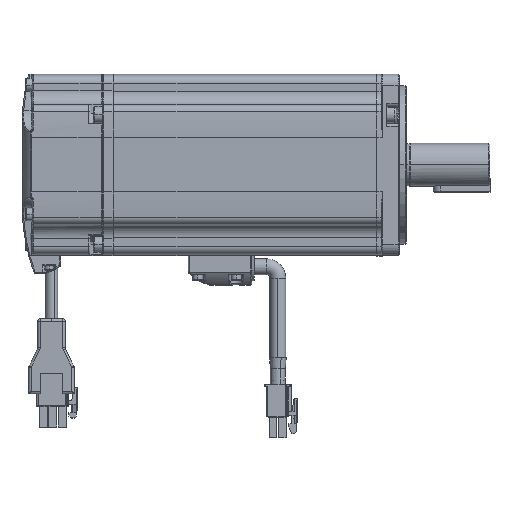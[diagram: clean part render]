
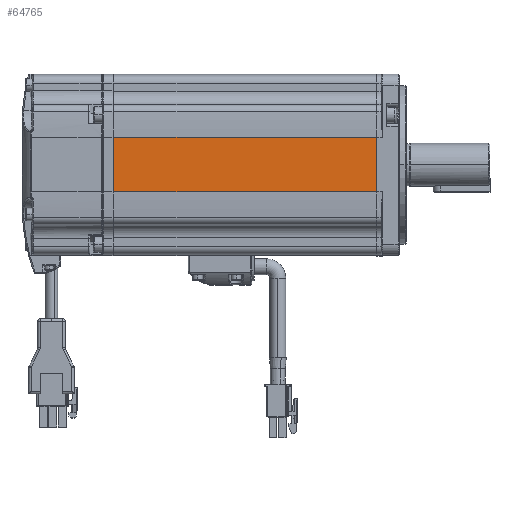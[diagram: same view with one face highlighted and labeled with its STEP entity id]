
A CAD part, top view. The second image highlights one B-rep face of the part: STEP entity #64765.
In plain terms, the highlighted planar face has unit normal (0, 0, 1).
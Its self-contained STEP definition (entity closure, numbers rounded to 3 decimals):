
#864 = VERTEX_POINT ( 'NONE', #68955 ) ;
#1918 = ORIENTED_EDGE ( 'NONE', *, *, #63977, .F. ) ;
#2219 = CARTESIAN_POINT ( 'NONE',  ( -163.03, 4.746, 40. ) ) ;
#2593 = FACE_OUTER_BOUND ( 'NONE', #38052, .T. ) ;
#3560 = VECTOR ( 'NONE', #45695, 1000. ) ;
#3561 = ORIENTED_EDGE ( 'NONE', *, *, #22150, .T. ) ;
#6146 = CARTESIAN_POINT ( 'NONE',  ( -162.53, 4.746, 40. ) ) ;
#8360 = CARTESIAN_POINT ( 'NONE',  ( -46.53, 4.746, 40. ) ) ;
#8598 = DIRECTION ( 'NONE',  ( 0., 1., 0. ) ) ;
#11593 = DIRECTION ( 'NONE',  ( 0., -1., 0. ) ) ;
#21412 = EDGE_CURVE ( 'NONE', #45099, #71170, #21601, .T. ) ;
#21601 = LINE ( 'NONE', #42941, #41384 ) ;
#22150 = EDGE_CURVE ( 'NONE', #44686, #45099, #38094, .T. ) ;
#22966 = CARTESIAN_POINT ( 'NONE',  ( -46.53, -7.254, 40. ) ) ;
#23118 = ORIENTED_EDGE ( 'NONE', *, *, #70926, .T. ) ;
#24256 = PLANE ( 'NONE',  #24320 ) ;
#24320 = AXIS2_PLACEMENT_3D ( 'NONE', #2219, #34650, #40600 ) ;
#31127 = CARTESIAN_POINT ( 'NONE',  ( -162.53, 16.746, 40. ) ) ;
#34631 = VECTOR ( 'NONE', #11593, 1000. ) ;
#34650 = DIRECTION ( 'NONE',  ( 0., 0., -1. ) ) ;
#36756 = DIRECTION ( 'NONE',  ( 1., 0., 0. ) ) ;
#38052 = EDGE_LOOP ( 'NONE', ( #1918, #3561, #39121, #23118 ) ) ;
#38094 = LINE ( 'NONE', #6146, #34631 ) ;
#39121 = ORIENTED_EDGE ( 'NONE', *, *, #21412, .T. ) ;
#39494 = CARTESIAN_POINT ( 'NONE',  ( -162.53, -7.254, 40. ) ) ;
#40600 = DIRECTION ( 'NONE',  ( 0., -1., 0. ) ) ;
#41384 = VECTOR ( 'NONE', #36756, 1000. ) ;
#42941 = CARTESIAN_POINT ( 'NONE',  ( -163.03, -7.254, 40. ) ) ;
#44686 = VERTEX_POINT ( 'NONE', #31127 ) ;
#45099 = VERTEX_POINT ( 'NONE', #39494 ) ;
#45455 = CARTESIAN_POINT ( 'NONE',  ( -163.03, 16.746, 40. ) ) ;
#45695 = DIRECTION ( 'NONE',  ( 1., 0., 0. ) ) ;
#48456 = LINE ( 'NONE', #8360, #68216 ) ;
#52481 = LINE ( 'NONE', #45455, #3560 ) ;
#63977 = EDGE_CURVE ( 'NONE', #44686, #864, #52481, .T. ) ;
#64765 = ADVANCED_FACE ( 'NONE', ( #2593 ), #24256, .F. ) ;
#68216 = VECTOR ( 'NONE', #8598, 1000. ) ;
#68955 = CARTESIAN_POINT ( 'NONE',  ( -46.53, 16.746, 40. ) ) ;
#70926 = EDGE_CURVE ( 'NONE', #71170, #864, #48456, .T. ) ;
#71170 = VERTEX_POINT ( 'NONE', #22966 ) ;
